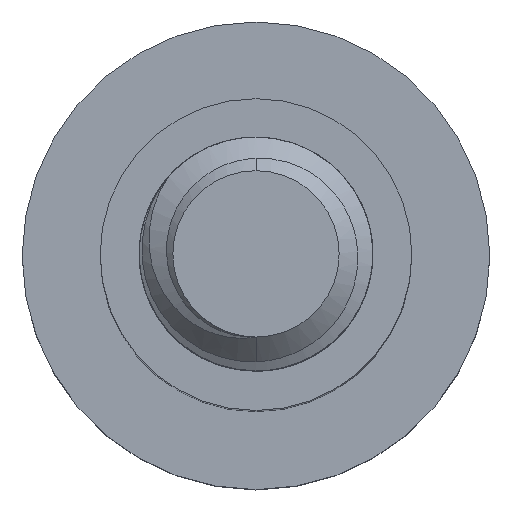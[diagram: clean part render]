
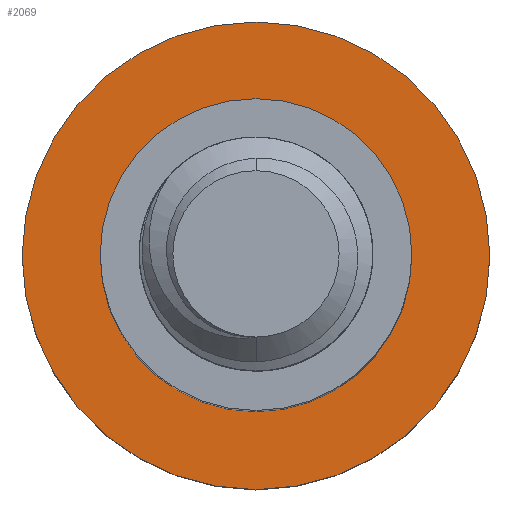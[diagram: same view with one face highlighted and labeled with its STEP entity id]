
A CAD part, top view. The second image highlights one B-rep face of the part: STEP entity #2069.
In plain terms, the highlighted planar face has unit normal (0, 0, 1).
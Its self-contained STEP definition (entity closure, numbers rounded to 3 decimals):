
#77 = DIRECTION ( 'NONE',  ( -1., 0., 0. ) ) ;
#256 = AXIS2_PLACEMENT_3D ( 'NONE', #2393, #1046, #77 ) ;
#370 = FACE_BOUND ( 'NONE', #508, .T. ) ;
#508 = EDGE_LOOP ( 'NONE', ( #1388, #3627 ) ) ;
#518 = CARTESIAN_POINT ( 'NONE',  ( 0., 0., -18. ) ) ;
#665 = AXIS2_PLACEMENT_3D ( 'NONE', #3474, #3072, #1079 ) ;
#774 = DIRECTION ( 'NONE',  ( -1., 0., 0. ) ) ;
#1046 = DIRECTION ( 'NONE',  ( 0., 0., -1. ) ) ;
#1079 = DIRECTION ( 'NONE',  ( -1., 0., 0. ) ) ;
#1284 = EDGE_CURVE ( 'NONE', #2235, #2430, #3560, .T. ) ;
#1325 = VERTEX_POINT ( 'NONE', #2911 ) ;
#1388 = ORIENTED_EDGE ( 'NONE', *, *, #3747, .T. ) ;
#1426 = CIRCLE ( 'NONE', #1849, 4. ) ;
#1621 = DIRECTION ( 'NONE',  ( 0., 0., -1. ) ) ;
#1849 = AXIS2_PLACEMENT_3D ( 'NONE', #518, #2832, #3228 ) ;
#1905 = AXIS2_PLACEMENT_3D ( 'NONE', #3248, #1621, #3289 ) ;
#1914 = AXIS2_PLACEMENT_3D ( 'NONE', #2165, #2748, #774 ) ;
#1942 = EDGE_CURVE ( 'NONE', #2430, #2235, #2949, .T. ) ;
#1994 = CARTESIAN_POINT ( 'NONE',  ( 4., 0., -18. ) ) ;
#2061 = EDGE_LOOP ( 'NONE', ( #3822, #3092 ) ) ;
#2069 = ADVANCED_FACE ( 'NONE', ( #370, #2432 ), #2372, .F. ) ;
#2165 = CARTESIAN_POINT ( 'NONE',  ( 0., 0., -18. ) ) ;
#2235 = VERTEX_POINT ( 'NONE', #4138 ) ;
#2372 = PLANE ( 'NONE',  #256 ) ;
#2393 = CARTESIAN_POINT ( 'NONE',  ( 0., 0., -18. ) ) ;
#2430 = VERTEX_POINT ( 'NONE', #2992 ) ;
#2432 = FACE_OUTER_BOUND ( 'NONE', #2061, .T. ) ;
#2476 = VERTEX_POINT ( 'NONE', #1994 ) ;
#2748 = DIRECTION ( 'NONE',  ( 0., 0., -1. ) ) ;
#2832 = DIRECTION ( 'NONE',  ( 0., 0., -1. ) ) ;
#2911 = CARTESIAN_POINT ( 'NONE',  ( -4., 0., -18. ) ) ;
#2949 = CIRCLE ( 'NONE', #1905, 6. ) ;
#2992 = CARTESIAN_POINT ( 'NONE',  ( 6., 0., -18. ) ) ;
#3072 = DIRECTION ( 'NONE',  ( 0., 0., -1. ) ) ;
#3092 = ORIENTED_EDGE ( 'NONE', *, *, #1284, .F. ) ;
#3228 = DIRECTION ( 'NONE',  ( -1., 0., 0. ) ) ;
#3248 = CARTESIAN_POINT ( 'NONE',  ( 0., 0., -18. ) ) ;
#3289 = DIRECTION ( 'NONE',  ( -1., 0., 0. ) ) ;
#3474 = CARTESIAN_POINT ( 'NONE',  ( 0., 0., -18. ) ) ;
#3560 = CIRCLE ( 'NONE', #665, 6. ) ;
#3627 = ORIENTED_EDGE ( 'NONE', *, *, #4211, .T. ) ;
#3747 = EDGE_CURVE ( 'NONE', #1325, #2476, #1426, .T. ) ;
#3822 = ORIENTED_EDGE ( 'NONE', *, *, #1942, .F. ) ;
#4138 = CARTESIAN_POINT ( 'NONE',  ( -6., 0., -18. ) ) ;
#4211 = EDGE_CURVE ( 'NONE', #2476, #1325, #4256, .T. ) ;
#4256 = CIRCLE ( 'NONE', #1914, 4. ) ;
